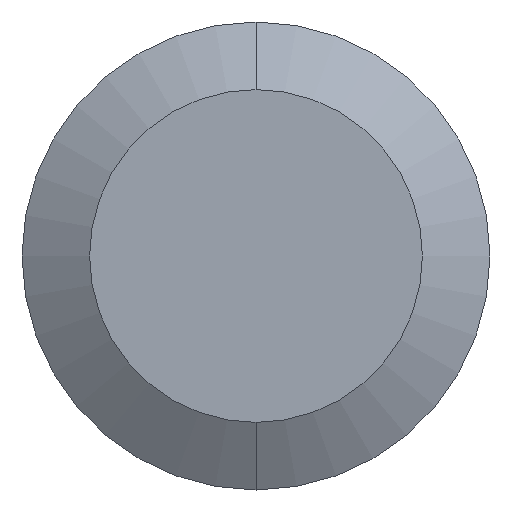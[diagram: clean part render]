
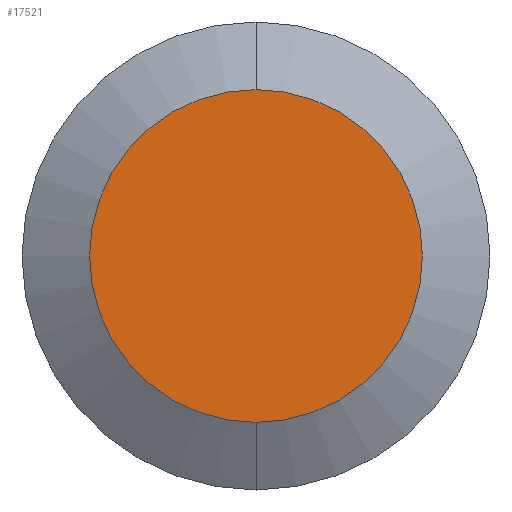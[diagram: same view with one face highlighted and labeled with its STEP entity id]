
A CAD part, front view. The second image highlights one B-rep face of the part: STEP entity #17521.
In plain terms, the highlighted planar face has unit normal (0, -1, 0).
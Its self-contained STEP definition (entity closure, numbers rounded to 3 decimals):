
#1482 = AXIS2_PLACEMENT_3D ( 'NONE', #22946, #9094, #25249 ) ;
#3623 = ORIENTED_EDGE ( 'NONE', *, *, #16657, .F. ) ;
#4829 = AXIS2_PLACEMENT_3D ( 'NONE', #13650, #29819, #15984 ) ;
#6041 = DIRECTION ( 'NONE',  ( 0., 0., 1. ) ) ;
#7136 = CIRCLE ( 'NONE', #4829, 1.067 ) ;
#9094 = DIRECTION ( 'NONE',  ( 0., 1., 0. ) ) ;
#9272 = VERTEX_POINT ( 'NONE', #23697 ) ;
#12483 = FACE_OUTER_BOUND ( 'NONE', #20492, .T. ) ;
#12897 = PLANE ( 'NONE',  #17023 ) ;
#13650 = CARTESIAN_POINT ( 'NONE',  ( 0., 0., 0. ) ) ;
#14814 = VERTEX_POINT ( 'NONE', #29423 ) ;
#15984 = DIRECTION ( 'NONE',  ( 0., 0., 1. ) ) ;
#16657 = EDGE_CURVE ( 'NONE', #9272, #14814, #7136, .T. ) ;
#17023 = AXIS2_PLACEMENT_3D ( 'NONE', #17447, #19864, #6041 ) ;
#17447 = CARTESIAN_POINT ( 'NONE',  ( 0., 0., 0. ) ) ;
#17521 = ADVANCED_FACE ( 'NONE', ( #12483 ), #12897, .F. ) ;
#19864 = DIRECTION ( 'NONE',  ( 0., 1., 0. ) ) ;
#20492 = EDGE_LOOP ( 'NONE', ( #3623, #21718 ) ) ;
#21718 = ORIENTED_EDGE ( 'NONE', *, *, #24703, .F. ) ;
#22946 = CARTESIAN_POINT ( 'NONE',  ( 0., 0., 0. ) ) ;
#23697 = CARTESIAN_POINT ( 'NONE',  ( 0., 0., 1.067 ) ) ;
#24703 = EDGE_CURVE ( 'NONE', #14814, #9272, #27087, .T. ) ;
#25249 = DIRECTION ( 'NONE',  ( 0., 0., 1. ) ) ;
#27087 = CIRCLE ( 'NONE', #1482, 1.067 ) ;
#29423 = CARTESIAN_POINT ( 'NONE',  ( 0., 0., -1.067 ) ) ;
#29819 = DIRECTION ( 'NONE',  ( 0., 1., 0. ) ) ;
